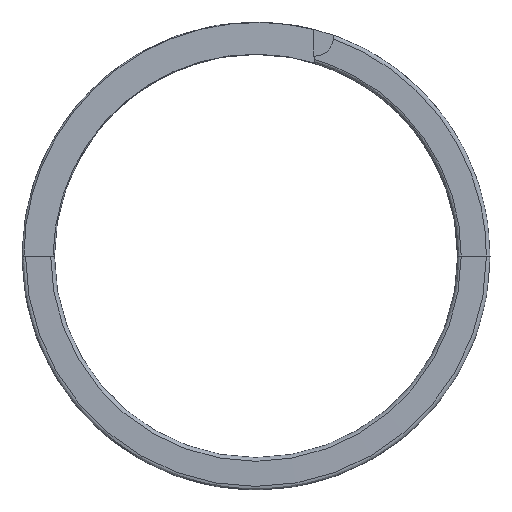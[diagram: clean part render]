
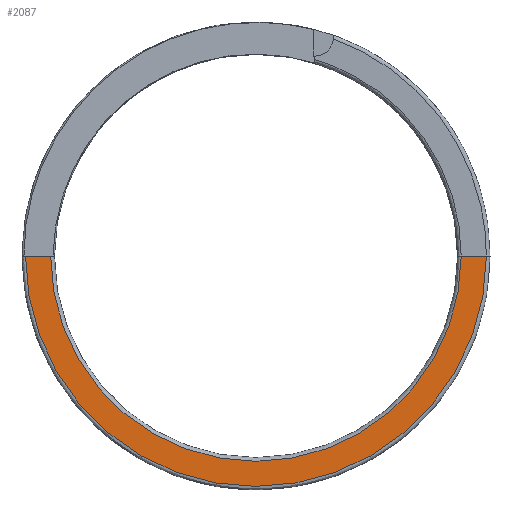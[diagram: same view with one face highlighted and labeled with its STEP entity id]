
A CAD part, front view. The second image highlights one B-rep face of the part: STEP entity #2087.
In plain terms, the highlighted conical face has half-angle 89.49 degrees and reference radius 8.143 mm.
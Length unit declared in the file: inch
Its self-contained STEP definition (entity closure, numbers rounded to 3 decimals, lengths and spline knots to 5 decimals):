
#166 = DIRECTION ( 'NONE',  ( -1., 0.009, 0. ) ) ;
#203 = ORIENTED_EDGE ( 'NONE', *, *, #449, .T. ) ;
#227 = DIRECTION ( 'NONE',  ( -1., 0.009, 0. ) ) ;
#245 = CARTESIAN_POINT ( 'NONE',  ( -0.00009, -0.00996, 0. ) ) ;
#328 = CARTESIAN_POINT ( 'NONE',  ( -0.28568, -0.00742, 0. ) ) ;
#449 = EDGE_CURVE ( 'NONE', #1736, #1249, #984, .T. ) ;
#453 = AXIS2_PLACEMENT_3D ( 'NONE', #1934, #963, #980 ) ;
#461 = CARTESIAN_POINT ( 'NONE',  ( 0.2855, -0.0125, 0. ) ) ;
#501 = DIRECTION ( 'NONE',  ( 1., 0., 0. ) ) ;
#591 = VECTOR ( 'NONE', #501, 39.37008 ) ;
#670 = EDGE_CURVE ( 'NONE', #674, #1209, #1118, .T. ) ;
#674 = VERTEX_POINT ( 'NONE', #1611 ) ;
#705 = ORIENTED_EDGE ( 'NONE', *, *, #2058, .F. ) ;
#780 = CARTESIAN_POINT ( 'NONE',  ( -0.28568, -0.00742, 0. ) ) ;
#963 = DIRECTION ( 'NONE',  ( -0.009, -1., 0. ) ) ;
#964 = DIRECTION ( 'NONE',  ( -1., 0.018, 0. ) ) ;
#980 = DIRECTION ( 'NONE',  ( -1., 0.009, 0. ) ) ;
#984 = CIRCLE ( 'NONE', #1872, 0.2856 ) ;
#1116 = LINE ( 'NONE', #461, #591 ) ;
#1118 = CIRCLE ( 'NONE', #453, 0.3206 ) ;
#1209 = VERTEX_POINT ( 'NONE', #1615 ) ;
#1249 = VERTEX_POINT ( 'NONE', #780 ) ;
#1283 = FACE_OUTER_BOUND ( 'NONE', #1461, .T. ) ;
#1423 = CARTESIAN_POINT ( 'NONE',  ( -0.00009, -0.00965, 0. ) ) ;
#1461 = EDGE_LOOP ( 'NONE', ( #203, #1541, #1870, #705 ) ) ;
#1541 = ORIENTED_EDGE ( 'NONE', *, *, #1636, .T. ) ;
#1560 = CONICAL_SURFACE ( 'NONE', #1942, 0.3206, 1.562 ) ;
#1611 = CARTESIAN_POINT ( 'NONE',  ( -0.32067, -0.00679, 0. ) ) ;
#1615 = CARTESIAN_POINT ( 'NONE',  ( 0.3205, -0.0125, 0. ) ) ;
#1636 = EDGE_CURVE ( 'NONE', #1249, #674, #1774, .T. ) ;
#1736 = VERTEX_POINT ( 'NONE', #2025 ) ;
#1771 = DIRECTION ( 'NONE',  ( 0.009, 1., 0. ) ) ;
#1774 = LINE ( 'NONE', #328, #1806 ) ;
#1806 = VECTOR ( 'NONE', #964, 39.37008 ) ;
#1870 = ORIENTED_EDGE ( 'NONE', *, *, #670, .T. ) ;
#1872 = AXIS2_PLACEMENT_3D ( 'NONE', #245, #2015, #227 ) ;
#1934 = CARTESIAN_POINT ( 'NONE',  ( -0.00009, -0.00965, 0. ) ) ;
#1942 = AXIS2_PLACEMENT_3D ( 'NONE', #1423, #1771, #166 ) ;
#2015 = DIRECTION ( 'NONE',  ( 0.009, 1., 0. ) ) ;
#2025 = CARTESIAN_POINT ( 'NONE',  ( 0.2855, -0.0125, 0. ) ) ;
#2058 = EDGE_CURVE ( 'NONE', #1736, #1209, #1116, .T. ) ;
#2087 = ADVANCED_FACE ( 'NONE', ( #1283 ), #1560, .T. ) ;
